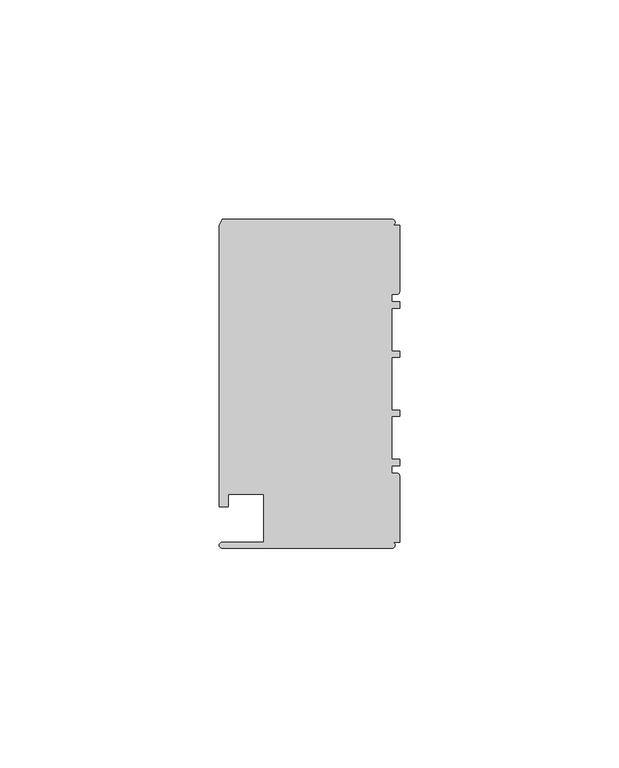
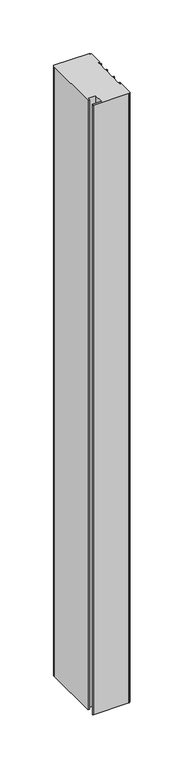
"""IFC4 building model written with IfcOpenShell, lengths in millimetres: member geometry, Прямоугольный импост : 1-AMG-1-Профиль 40Х75 Низ Л."""

from ifc_helpers import new_model, si_unit, point, frame, frame_2d, origin, place, context, project, spatial, polyline, circle_curve, trimmed, segment, composite_curve, outline, extrude, source, transform, mapped, element, save


def member_126d7119(model_context):
    return source(origin(), model_context, "Body", "SweptSolid", [
        extrude(outline(composite_curve([segment(polyline([(-1.7, -37.5), (-40.4, -37.5)]), True, "CONTINUOUS"), segment(trimmed(circle_curve(frame_2d((-40.4, -36.8)), 0.7), [point((-40.4, -37.5))], [point((-40.4, -36.1))], False, "CARTESIAN"), True, "CONTINUOUS"), segment(polyline([(-40.4, -36.1), (-31.0, -36.1), (-31.0, -25.25), (-39.0, -25.25), (-39.0, -28.1), (-41.1, -28.1), (-41.1, 35.6)]), True, "CONTINUOUS"), segment(trimmed(circle_curve(frame_2d((-38.1714286, 35.6)), 2.9285714), [point((-41.1, 35.6))], [point((-40.4, 37.5))], False, "CARTESIAN"), True, "CONTINUOUS"), segment(polyline([(-40.4, 37.5), (-1.7, 37.5)]), True, "CONTINUOUS"), segment(trimmed(circle_curve(frame_2d((-1.7, 36.8)), 0.7), [point((-1.7, 37.5))], [point((-1.7, 36.1))], False, "CARTESIAN"), True, "CONTINUOUS"), segment(polyline([(-1.7, 36.1), (0.0, 36.1), (0.0, 20.95)]), True, "CONTINUOUS"), segment(trimmed(circle_curve(frame_2d((-0.5, 20.95)), 0.5), [point((0.0, 20.95))], [point((-0.5, 20.45))], False, "CARTESIAN"), True, "CONTINUOUS"), segment(polyline([(-0.5, 20.45), (-1.8, 20.45), (-1.8, 18.65), (0.0, 18.65), (0.0, 17.25), (-1.8, 17.25), (-1.8, 7.4), (0.0, 7.4), (0.0, 6.0), (-1.8, 6.0), (-1.8, -6.0), (0.0, -6.0), (0.0, -7.4), (-1.8, -7.4), (-1.8, -17.25), (0.0, -17.25), (0.0, -18.65), (-1.8, -18.65), (-1.8, -20.45), (-0.5, -20.45)]), True, "CONTINUOUS"), segment(trimmed(circle_curve(frame_2d((-0.5, -20.95)), 0.5), [point((-0.5, -20.45))], [point((0.0, -20.95))], False, "CARTESIAN"), True, "CONTINUOUS"), segment(polyline([(0.0, -20.95), (0.0, -36.1), (-1.7, -36.1)]), True, "CONTINUOUS"), segment(trimmed(circle_curve(frame_2d((-1.7, -36.8)), 0.7), [point((-1.7, -36.1))], [point((-1.7, -37.5))], False, "CARTESIAN"), True, "CONTINUOUS")], self_intersect=False)), frame((0.0, 0.0, -700.0), z_axis=(0.0, 0.0, 1.0), x_axis=(1.0, 0.0, 0.0)), (0.0, 0.0, 1.0), 700.0),
    ])


if __name__ == "__main__":
    model = new_model("IFC4")
    model_context = context("Model", 3, world=origin())
    ifc_project = project(units=[si_unit("LENGTHUNIT", "METRE", prefix="MILLI")], contexts=[model_context])
    site = spatial("IfcSite", under=ifc_project)
    building = spatial("IfcBuilding", under=site)
    placement = place(None, origin())
    member_shape = member_126d7119(model_context)
    element("IfcMember", 1, ObjectType="Прямоугольный импост : 1-AMG-1-Профиль 40Х75 Низ Л", at=placement, inside=building, context=model_context, shape_type="MappedRepresentation", body=[
        mapped(member_shape, transform((0.0, 0.0, 0.0), x_axis=(1.0, 0.0, 0.0), y_axis=(0.0, 1.0, 0.0), z_axis=(0.0, 0.0, 1.0))),
    ])
    save(model, "model.ifc")
